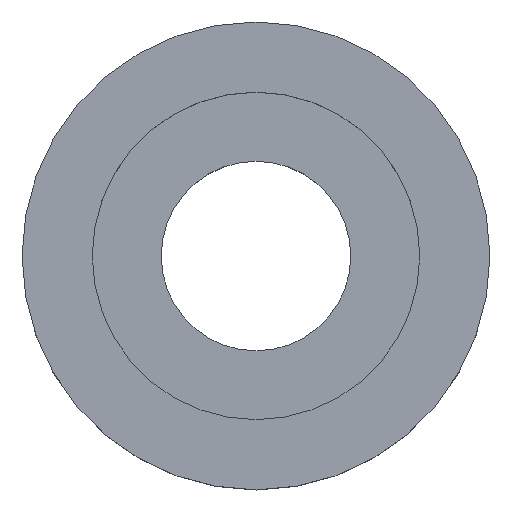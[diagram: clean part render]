
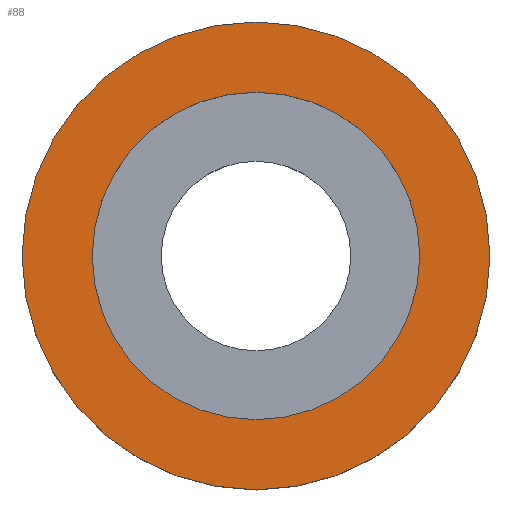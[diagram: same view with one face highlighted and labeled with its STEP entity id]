
A CAD part, top view. The second image highlights one B-rep face of the part: STEP entity #88.
In plain terms, the highlighted planar face has unit normal (0, 0, 1).
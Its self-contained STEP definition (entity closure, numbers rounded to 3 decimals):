
#16=FACE_BOUND('',#33,.T.);
#19=PLANE('',#123);
#25=FACE_OUTER_BOUND('',#32,.T.);
#32=EDGE_LOOP('',(#77));
#33=EDGE_LOOP('',(#78));
#42=CIRCLE('',#114,7.);
#47=CIRCLE('',#122,10.);
#48=VERTEX_POINT('',#156);
#53=VERTEX_POINT('',#171);
#54=EDGE_CURVE('',#48,#48,#42,.T.);
#62=EDGE_CURVE('',#53,#53,#47,.T.);
#77=ORIENTED_EDGE('',*,*,#62,.T.);
#78=ORIENTED_EDGE('',*,*,#54,.T.);
#88=ADVANCED_FACE('',(#25,#16),#19,.T.);
#114=AXIS2_PLACEMENT_3D('',#157,#129,#130);
#122=AXIS2_PLACEMENT_3D('',#173,#148,#149);
#123=AXIS2_PLACEMENT_3D('',#174,#150,#151);
#129=DIRECTION('center_axis',(0.,0.,-1.));
#130=DIRECTION('ref_axis',(1.,0.,0.));
#148=DIRECTION('center_axis',(0.,0.,1.));
#149=DIRECTION('ref_axis',(1.,0.,0.));
#150=DIRECTION('center_axis',(0.,0.,1.));
#151=DIRECTION('ref_axis',(1.,0.,0.));
#156=CARTESIAN_POINT('',(-7.,0.,0.));
#157=CARTESIAN_POINT('Origin',(0.,0.,0.));
#171=CARTESIAN_POINT('',(-10.,0.,0.));
#173=CARTESIAN_POINT('Origin',(0.,0.,0.));
#174=CARTESIAN_POINT('Origin',(0.,0.,0.));
